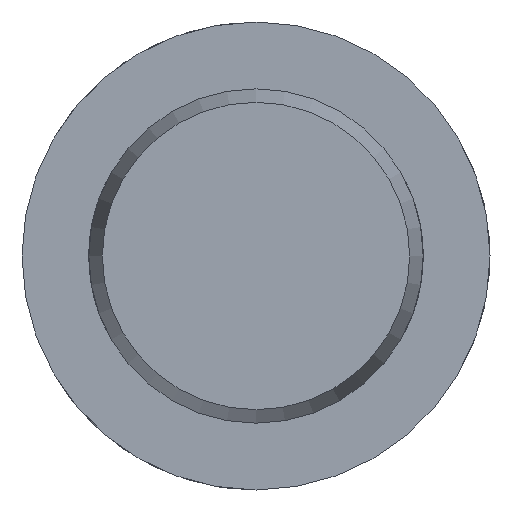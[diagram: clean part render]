
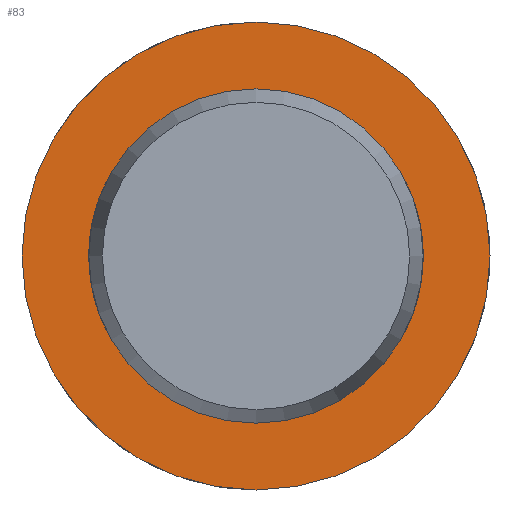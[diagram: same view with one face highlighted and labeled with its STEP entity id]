
A CAD part, left-side view. The second image highlights one B-rep face of the part: STEP entity #83.
In plain terms, the highlighted planar face has unit normal (-1, 0, 0).
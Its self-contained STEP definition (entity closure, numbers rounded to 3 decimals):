
#83 = ADVANCED_FACE( '', ( #128, #129 ), #130, .F. );
#128 = FACE_OUTER_BOUND( '', #204, .T. );
#129 = FACE_BOUND( '', #205, .T. );
#130 = PLANE( '', #206 );
#204 = EDGE_LOOP( '', ( #318 ) );
#205 = EDGE_LOOP( '', ( #319 ) );
#206 = AXIS2_PLACEMENT_3D( '', #320, #321, #322 );
#318 = ORIENTED_EDGE( '', *, *, #481, .F. );
#319 = ORIENTED_EDGE( '', *, *, #471, .T. );
#320 = CARTESIAN_POINT( '', ( 39.6, 5., 0. ) );
#321 = DIRECTION( '', ( 1., 0., 0. ) );
#322 = DIRECTION( '', ( 0., 0., -1. ) );
#471 = EDGE_CURVE( '', #541, #541, #542, .T. );
#481 = EDGE_CURVE( '', #559, #559, #560, .T. );
#541 = VERTEX_POINT( '', #726 );
#542 = CIRCLE( '', #727, 5. );
#559 = VERTEX_POINT( '', #881 );
#560 = CIRCLE( '', #882, 7. );
#726 = CARTESIAN_POINT( '', ( 39.6, 0., -5. ) );
#727 = AXIS2_PLACEMENT_3D( '', #943, #944, #945 );
#881 = CARTESIAN_POINT( '', ( 39.6, 0., -7. ) );
#882 = AXIS2_PLACEMENT_3D( '', #964, #965, #966 );
#943 = CARTESIAN_POINT( '', ( 39.6, 0., 0. ) );
#944 = DIRECTION( '', ( 1., 0., 0. ) );
#945 = DIRECTION( '', ( 0., 0., -1. ) );
#964 = CARTESIAN_POINT( '', ( 39.6, 0., 0. ) );
#965 = DIRECTION( '', ( 1., 0., 0. ) );
#966 = DIRECTION( '', ( 0., 0., -1. ) );
